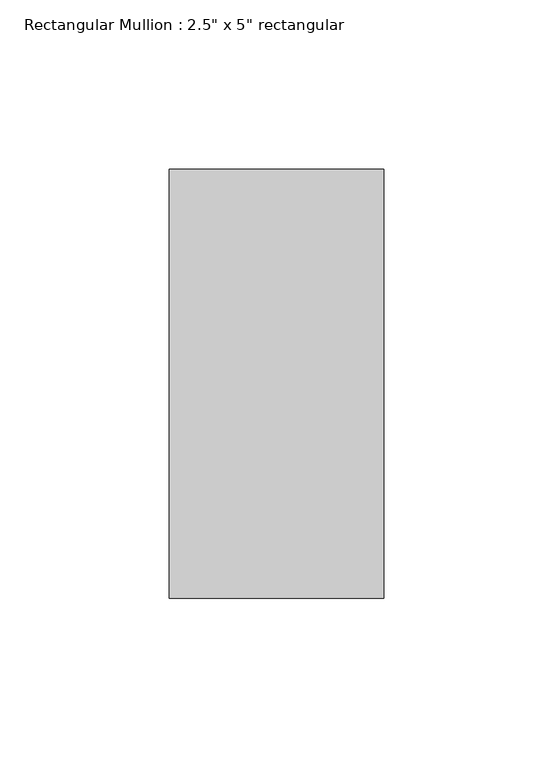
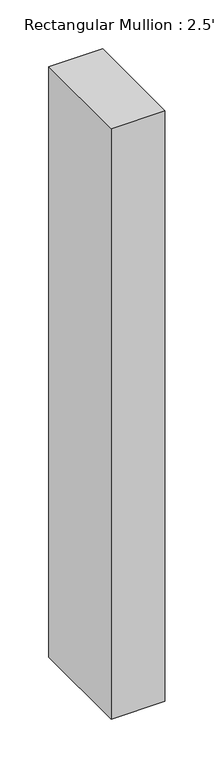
"""IFC4 building model written with IfcOpenShell, lengths in millimetres: member geometry."""

import ifcopenshell
import ifcopenshell.guid

model = None  # the IFC model being written
_history = None  # IfcOwnerHistory: only IFC2X3 demands one
_inside = {}  # id of a spatial element -> (the spatial element, [elements in it])
_under = {}  # id of a project, library or spatial element -> (it, [spatial elements below it])
_declared = {}  # id of a project -> (the project, [libraries it declares])
_typed = {}  # id of a type object -> (the type object, [elements of that type])
_made_of = {}  # id of a material, layer set ... -> (it, [elements and type objects made of it])


def new_model(schema):
    """Start an empty IFC model of exactly this schema.

    Asked for "IFC4X3", IfcOpenShell would pick the latest addendum, in which some entities
    have other attributes; the version numbers below select the first issue.
    IFC2X3 requires an IfcOwnerHistory on every rooted entity: one is made here for all.
    """
    global model, _history
    if schema == "IFC4X3":
        model = ifcopenshell.file(schema_version=(4, 3, 0, 0))
    else:
        model = ifcopenshell.file(schema=schema)
    _inside.clear()
    _under.clear()
    _declared.clear()
    _typed.clear()
    _made_of.clear()
    _history = None
    if model.schema == "IFC2X3":
        org = make("IfcOrganization", Name="unknown")
        user = make(
            "IfcPersonAndOrganization",
            ThePerson=make("IfcPerson", FamilyName="unknown"),
            TheOrganization=org,
        )
        app = make(
            "IfcApplication",
            ApplicationDeveloper=org,
            Version="unknown",
            ApplicationFullName="unknown",
            ApplicationIdentifier="unknown",
        )
        _history = make(
            "IfcOwnerHistory",
            OwningUser=user,
            OwningApplication=app,
            ChangeAction="ADDED",
            CreationDate=0,
        )
    return model


def make(cls, **values):
    """One entity of the class cls with the attributes given. An attribute that is None is left unset."""
    return model.create_entity(
        cls, **{name: value for name, value in values.items() if value is not None}
    )


def rooted(cls, **values):
    """An entity with a GlobalId (a new one), such as an element, a storey or a relation."""
    return make(cls, GlobalId=ifcopenshell.guid.new(), OwnerHistory=_history, **values)


def si_unit(unit_type, name, prefix=None):
    """IfcSIUnit, for example si_unit("LENGTHUNIT", "METRE", prefix="MILLI")."""
    return make("IfcSIUnit", UnitType=unit_type, Prefix=prefix, Name=name)


def assignment(units):
    """IfcUnitAssignment: the units of a project."""
    return None if units is None else make("IfcUnitAssignment", Units=units)


def point(xyz):
    """IfcCartesianPoint."""
    return None if xyz is None else make("IfcCartesianPoint", Coordinates=xyz)


def direction(xyz):
    """IfcDirection."""
    return None if xyz is None else make("IfcDirection", DirectionRatios=xyz)


def frame(location, z_axis=None, x_axis=None):
    """IfcAxis2Placement3D, a coordinate frame: its origin and axes. An axis left out is left unset."""
    return make(
        "IfcAxis2Placement3D",
        Location=point(location),
        Axis=direction(z_axis),
        RefDirection=direction(x_axis),
    )


def origin():
    """The frame at (0, 0, 0) with its axes left unset."""
    return frame((0.0, 0.0, 0.0))


def place(relative_to, where):
    """IfcLocalPlacement: puts the frame where relative to a parent placement (None: the world)."""
    return make(
        "IfcLocalPlacement", PlacementRelTo=relative_to, RelativePlacement=where
    )


def context(
    kind, dimensions, precision=None, world=None, true_north=None, identifier=None
):
    """IfcGeometricRepresentationContext, for example the 3D "Model" context."""
    return make(
        "IfcGeometricRepresentationContext",
        ContextIdentifier=identifier,
        ContextType=kind,
        CoordinateSpaceDimension=dimensions,
        Precision=precision,
        WorldCoordinateSystem=world,
        TrueNorth=true_north,
    )


def project(units=None, contexts=None):
    """IfcProject with its units and contexts."""
    return rooted(
        "IfcProject",
        Name="project",
        RepresentationContexts=contexts,
        UnitsInContext=assignment(units),
    )


def spatial(cls, under=None, at=None, **own):
    """A site, building, storey or space (cls), placed at a placement, below another one or the project."""
    s = rooted(cls, ObjectPlacement=at, **own)
    if under is not None:
        _under.setdefault(under.id(), (under, []))[1].append(s)
    return s


def polyline(points):
    """IfcPolyline through the points."""
    return make("IfcPolyline", Points=[point(p) for p in points])


def outline(outer, holes=None, kind="AREA"):
    """IfcArbitraryClosedProfileDef: a profile drawn as a closed curve; with holes, ...WithVoids."""
    if holes is None:
        return make("IfcArbitraryClosedProfileDef", ProfileType=kind, OuterCurve=outer)
    return make(
        "IfcArbitraryProfileDefWithVoids",
        ProfileType=kind,
        OuterCurve=outer,
        InnerCurves=holes,
    )


def extrude(swept, where, along, depth):
    """IfcExtrudedAreaSolid: the profile swept, set in the frame where, extruded along a direction by depth."""
    return make(
        "IfcExtrudedAreaSolid",
        SweptArea=swept,
        Position=where,
        ExtrudedDirection=direction(along),
        Depth=depth,
    )


def shape(context_of_items, identifier, shape_type, items):
    """IfcShapeRepresentation: the items that make up one representation, for example the "Body"."""
    return make(
        "IfcShapeRepresentation",
        ContextOfItems=context_of_items,
        RepresentationIdentifier=identifier,
        RepresentationType=shape_type,
        Items=items,
    )


def source(mapping_origin, context_of_items, identifier, shape_type, items):
    """IfcRepresentationMap: a shape defined once, which mapped items show again and again."""
    return make(
        "IfcRepresentationMap",
        MappingOrigin=mapping_origin,
        MappedRepresentation=shape(context_of_items, identifier, shape_type, items),
    )


def transform(
    local_origin,
    x_axis=None,
    y_axis=None,
    z_axis=None,
    scale=None,
    scale2=None,
    scale3=None,
    uniform=True,
):
    """IfcCartesianTransformationOperator3D, or its non-uniform kind. x_axis, y_axis, z_axis: its Axis1, 2, 3."""
    if uniform:
        return make(
            "IfcCartesianTransformationOperator3D",
            Axis1=direction(x_axis),
            Axis2=direction(y_axis),
            LocalOrigin=point(local_origin),
            Scale=scale,
            Axis3=direction(z_axis),
        )
    return make(
        "IfcCartesianTransformationOperator3DnonUniform",
        Axis1=direction(x_axis),
        Axis2=direction(y_axis),
        LocalOrigin=point(local_origin),
        Scale=scale,
        Axis3=direction(z_axis),
        Scale2=scale2,
        Scale3=scale3,
    )


def mapped(mapping_source, mapping_target):
    """IfcMappedItem: shows the shape of a source again, moved by a transform."""
    return make(
        "IfcMappedItem", MappingSource=mapping_source, MappingTarget=mapping_target
    )


def made_of(thing, what):
    """Note that an element or type object is made of a material, layer set ...; save() writes the relation."""
    if what is not None:
        _made_of.setdefault(what.id(), (what, []))[1].append(thing)
    return thing


def element(
    cls,
    number,
    at=None,
    inside=None,
    cuts=None,
    type_object=None,
    material=None,
    context=None,
    identifier="Body",
    shape_type=None,
    held_by="IfcProductDefinitionShape",
    body=None,
    shapes=None,
    **own,
):
    """One element of the class cls, such as IfcWall. Its Tag is "e" and its number.

    at: its placement. inside: the storey or other place that contains it. cuts: it is an
    opening in that element (IfcRelVoidsElement). A single representation is given by context,
    identifier, shape_type and body (its items); several are given by shapes. held_by: the class
    of the entity that holds the representations. save() writes the other relations.
    """
    e = rooted(cls, Tag="e%d" % number, ObjectPlacement=at, **own)
    if body is not None:
        shapes = [shape(context, identifier, shape_type, body)]
    if shapes is not None:
        e.Representation = make(held_by, Representations=shapes)
    if inside is not None:
        _inside.setdefault(inside.id(), (inside, []))[1].append(e)
    if cuts is not None:
        rooted(
            "IfcRelVoidsElement", RelatingBuildingElement=cuts, RelatedOpeningElement=e
        )
    if type_object is not None:
        _typed.setdefault(type_object.id(), (type_object, []))[1].append(e)
    return made_of(e, material)


def aggregate(whole, parts):
    """IfcRelAggregates: a whole, such as a stair, and the parts it consists of."""
    return rooted("IfcRelAggregates", RelatingObject=whole, RelatedObjects=parts)


def save(model, path):
    """Write the relations noted so far, then the file.

    IfcRelAggregates (storeys below a building ...), IfcRelContainedInSpatialStructure (elements
    in a storey), IfcRelDefinesByType, IfcRelAssociatesMaterial and IfcRelDeclares: one each for
    every whole, place, type object, material and project.
    """
    for whole, parts in _under.values():
        aggregate(whole, parts)
    for where, things in _inside.values():
        rooted(
            "IfcRelContainedInSpatialStructure",
            RelatedElements=things,
            RelatingStructure=where,
        )
    for kind, things in _typed.values():
        rooted("IfcRelDefinesByType", RelatedObjects=things, RelatingType=kind)
    for what, things in _made_of.values():
        rooted("IfcRelAssociatesMaterial", RelatedObjects=things, RelatingMaterial=what)
    for by, libraries in _declared.values():
        rooted("IfcRelDeclares", RelatingContext=by, RelatedDefinitions=libraries)
    model.write(path)


def member_d7af48b5(model_context):
    return source(origin(), model_context, "Body", "SweptSolid", [
        extrude(outline(polyline([(0.0, 63.5), (0.0, -63.5), (-63.5, -63.5), (-63.5, 63.5), (0.0, 63.5)])), frame((0.0, 0.0, -736.6), z_axis=(0.0, 0.0, 1.0), x_axis=(1.0, 0.0, 0.0)), (0.0, 0.0, 1.0), 736.6),
    ])


if __name__ == "__main__":
    model = new_model("IFC4")
    model_context = context("Model", 3, world=origin())
    ifc_project = project(units=[si_unit("LENGTHUNIT", "METRE", prefix="MILLI")], contexts=[model_context])
    site = spatial("IfcSite", under=ifc_project)
    building = spatial("IfcBuilding", under=site)
    placement = place(None, origin())
    member_shape = member_d7af48b5(model_context)
    element("IfcMember", 1, ObjectType="Rectangular Mullion : 2.5\" x 5\" rectangular", at=placement, inside=building, context=model_context, shape_type="MappedRepresentation", body=[
        mapped(member_shape, transform((0.0, 0.0, 0.0), x_axis=(1.0, 0.0, 0.0), y_axis=(0.0, 1.0, 0.0), z_axis=(0.0, 0.0, 1.0))),
    ])
    save(model, "model.ifc")
